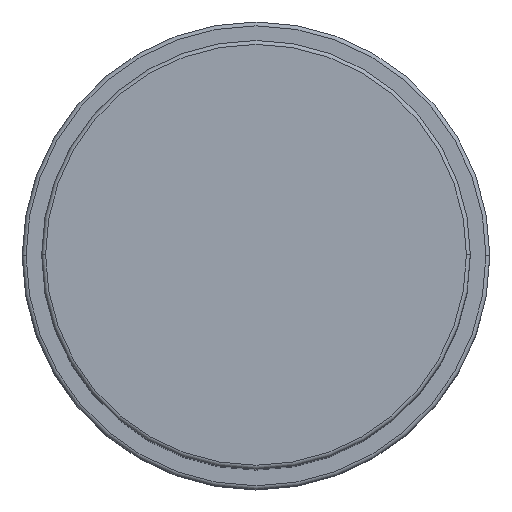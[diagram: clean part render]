
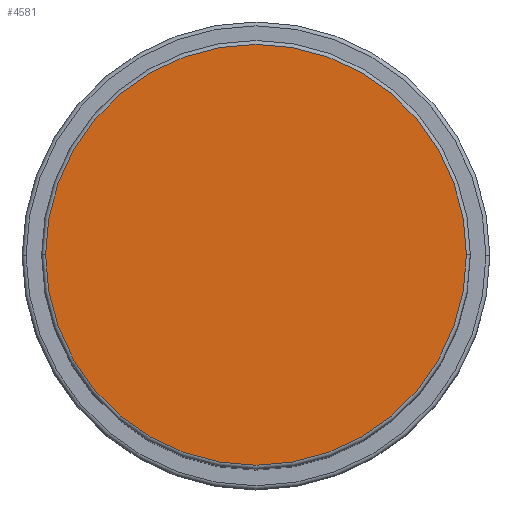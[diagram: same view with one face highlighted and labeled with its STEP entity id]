
A CAD part, top view. The second image highlights one B-rep face of the part: STEP entity #4581.
In plain terms, the highlighted planar face has unit normal (0, 0, 1).
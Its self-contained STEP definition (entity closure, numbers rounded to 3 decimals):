
#611 = CIRCLE ( 'NONE', #2495, 27. ) ;
#679 = CIRCLE ( 'NONE', #3377, 27. ) ;
#1091 = DIRECTION ( 'NONE',  ( 1., 0., 0. ) ) ;
#1122 = CARTESIAN_POINT ( 'NONE',  ( 0., 0., 101. ) ) ;
#1293 = CARTESIAN_POINT ( 'NONE',  ( 0., 0., 101. ) ) ;
#1801 = EDGE_CURVE ( 'NONE', #3440, #2068, #679, .T. ) ;
#2068 = VERTEX_POINT ( 'NONE', #4092 ) ;
#2198 = ORIENTED_EDGE ( 'NONE', *, *, #3881, .T. ) ;
#2352 = DIRECTION ( 'NONE',  ( 0., 0., 1. ) ) ;
#2495 = AXIS2_PLACEMENT_3D ( 'NONE', #1122, #2352, #2672 ) ;
#2539 = DIRECTION ( 'NONE',  ( 1., 0., 0. ) ) ;
#2609 = CARTESIAN_POINT ( 'NONE',  ( 0., 0., 101. ) ) ;
#2672 = DIRECTION ( 'NONE',  ( 1., 0., 0. ) ) ;
#2998 = PLANE ( 'NONE',  #4131 ) ;
#3377 = AXIS2_PLACEMENT_3D ( 'NONE', #2609, #4145, #1091 ) ;
#3440 = VERTEX_POINT ( 'NONE', #4789 ) ;
#3476 = EDGE_LOOP ( 'NONE', ( #4520, #2198 ) ) ;
#3586 = DIRECTION ( 'NONE',  ( 0., 0., 1. ) ) ;
#3881 = EDGE_CURVE ( 'NONE', #2068, #3440, #611, .T. ) ;
#4092 = CARTESIAN_POINT ( 'NONE',  ( -27., 0., 101. ) ) ;
#4131 = AXIS2_PLACEMENT_3D ( 'NONE', #1293, #3586, #2539 ) ;
#4145 = DIRECTION ( 'NONE',  ( 0., 0., 1. ) ) ;
#4520 = ORIENTED_EDGE ( 'NONE', *, *, #1801, .T. ) ;
#4581 = ADVANCED_FACE ( 'NONE', ( #4656 ), #2998, .T. ) ;
#4656 = FACE_OUTER_BOUND ( 'NONE', #3476, .T. ) ;
#4789 = CARTESIAN_POINT ( 'NONE',  ( 27., 0., 101. ) ) ;
